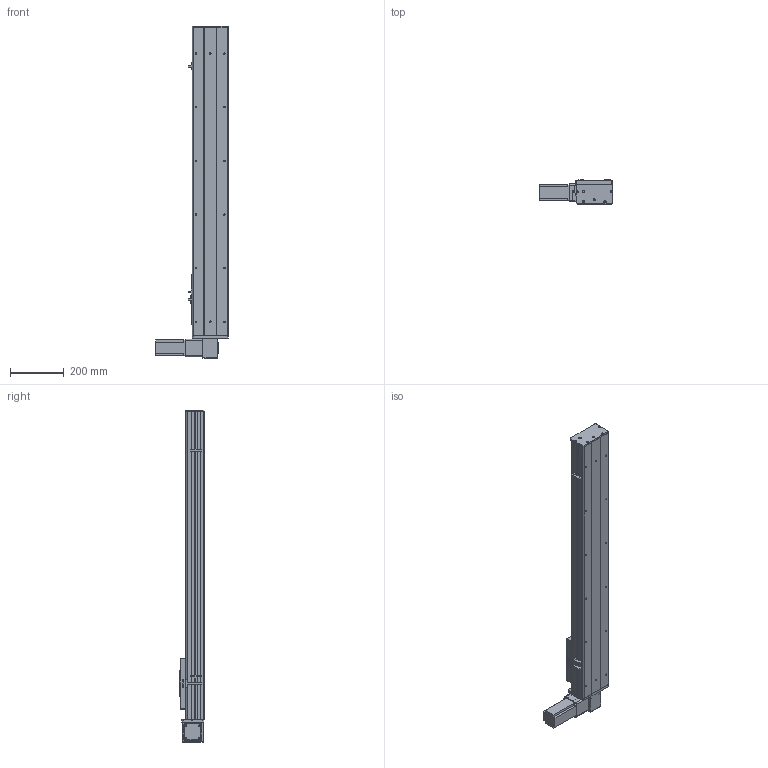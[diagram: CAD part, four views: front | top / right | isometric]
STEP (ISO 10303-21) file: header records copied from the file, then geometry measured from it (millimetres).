
FILE_DESCRIPTION (( 'STEP AP203' ), '1' );
FILE_NAME ('Y135CB-D90-S850-BD-P400W.STEP', '2020-02-19T03:14:40', ( '微软用户' ), ( '微软中国' ), 'SwSTEP 2.0', 'SolidWorks 2017', '' );
FILE_SCHEMA (( 'CONFIG_CONTROL_DESIGN' ));
Length unit declared in the file: millimetre
Products named in the file (16): 5C--俋欶; 0B-埴倛裔啣; Y135CB-耜裔; C-雄赽釱--; 0B-源倛裔啣; 135CB---遴掛极.-; Y10B--々湍喘謫眊--666; san松下电机400不带刹车----; 35CB---喘謫眊楊擘啣; 0B-薊粣ん眊; 5CB --掛极耜裔啣-; Y135CB-D90-S850-BD-P400W; C-詩湍揤踡え-陔; 135CB--詩湍-CE; Y100-135俋离換覜ん--; Y135C-陔俋离換覜結え-
Assembly tree (19 placements, depth 2):
  Y135CB-D90-S850-BD-P400W
    Y135CB-耜裔
    135CB---遴掛极.-
    35CB---喘謫眊楊擘啣
    0B-埴倛裔啣
    0B-源倛裔啣
    san松下电机400不带刹车----
    5CB --掛极耜裔啣-  x2
    C-詩湍揤踡え-陔  x2
    135CB--詩湍-CE
    Y100-135俋离換覜ん--  x3
    Y135C-陔俋离換覜結え-
    5C--俋欶
    C-雄赽釱--
    Y10B--々湍喘謫眊--666
    0B-薊粣ん眊
Bounding box: 272 x 91 x 1238 mm (x, y, z)
Volume: 3997312.6 mm3; surface area: 1516093.2 mm2
Topology: 19 solids, 19 shells, 851 faces, 2248 edges, 1488 vertices
Faces by surface type: cylinder 420, plane 415, cone 16
Entity records: 25804 total; most frequent: DIRECTION 4300, CARTESIAN_POINT 4203, ORIENTED_EDGE 3972, EDGE_CURVE 1986, AXIS2_PLACEMENT_3D 1573, VERTEX_POINT 1316, LINE 1154, VECTOR 1154
